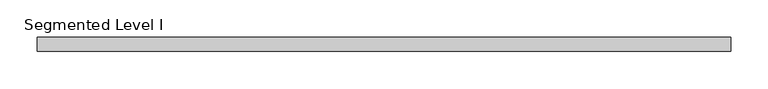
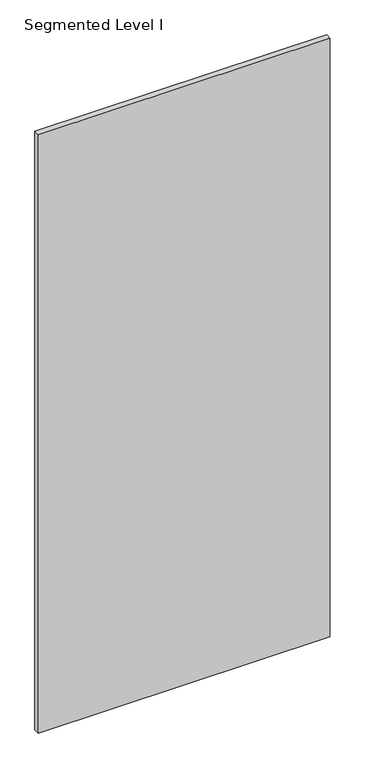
"""IFC4 building model written with IfcOpenShell, lengths in millimetres: proxy geometry, Panel-Fascia-Teknion-Altos-Standard : Segmented Level I."""

from ifc_helpers import new_model, si_unit, frame, origin, place, context, project, spatial, polyline, outline, extrude, source, transform, mapped, element, save


def segmented_level_i_f3371547(model_context):
    return source(origin(), model_context, "Body", "SweptSolid", [
        extrude(outline(polyline([(467.9900391, -9.525), (-467.9900391, -9.525), (-467.9900391, 9.525), (467.9900391, 9.525), (467.9900391, -9.525)])), frame((0.0, 0.0, 3.175), z_axis=(0.0, 0.0, 1.0), x_axis=(1.0, 0.0, 0.0)), (0.0, 0.0, 1.0), 2029.968),
    ])


if __name__ == "__main__":
    model = new_model("IFC4")
    model_context = context("Model", 3, world=origin())
    ifc_project = project(units=[si_unit("LENGTHUNIT", "METRE", prefix="MILLI")], contexts=[model_context])
    site = spatial("IfcSite", under=ifc_project)
    building = spatial("IfcBuilding", under=site)
    placement = place(None, origin())
    segmented_level_i_shape = segmented_level_i_f3371547(model_context)
    element("IfcBuildingElementProxy", 1, Name="Panel-Fascia-Teknion-Altos-Standard : Segmented Level I", ObjectType="Panel-Fascia-Teknion-Altos-Standard : Segmented Level I", at=placement, inside=building, context=model_context, shape_type="MappedRepresentation", body=[
        mapped(segmented_level_i_shape, transform((0.0, 0.0, 0.0), x_axis=(1.0, 0.0, 0.0), y_axis=(0.0, 1.0, 0.0), z_axis=(0.0, 0.0, 1.0))),
    ])
    save(model, "model.ifc")
